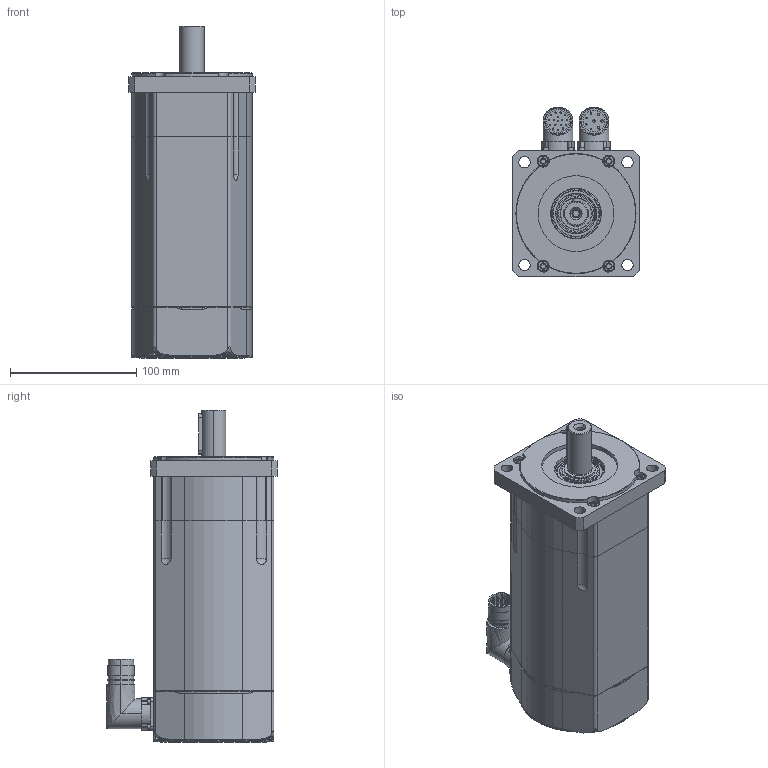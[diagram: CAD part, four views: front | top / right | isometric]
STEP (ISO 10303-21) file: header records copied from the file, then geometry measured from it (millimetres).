
FILE_DESCRIPTION (( 'STEP AP203' ), '1' );
FILE_NAME ('SSAX100S_CF.STEP', '2015-09-10T15:03:21', ( 'Tecnico motori' ), ( '' ), 'SwSTEP 2.0', 'SolidWorks 2010', '' );
FILE_SCHEMA (( 'CONFIG_CONTROL_DESIGN' ));
Length unit declared in the file: millimetre
Products named in the file (1): SSAX100S_CF
Bounding box: 100 x 134.5 x 262.5 mm (x, y, z)
Surface area: 122069.2 mm2 (no closed solid volume)
Topology: 0 solids, 37 shells, 492 faces, 1407 edges, 976 vertices
Faces by surface type: cylinder 217, plane 198, cone 41, torus 30, bspline 6
Entity records: 17744 total; most frequent: CARTESIAN_POINT 4507, DIRECTION 2936, ORIENTED_EDGE 2433, EDGE_CURVE 1407, AXIS2_PLACEMENT_3D 1157, VERTEX_POINT 976, CIRCLE 670, LINE 622
